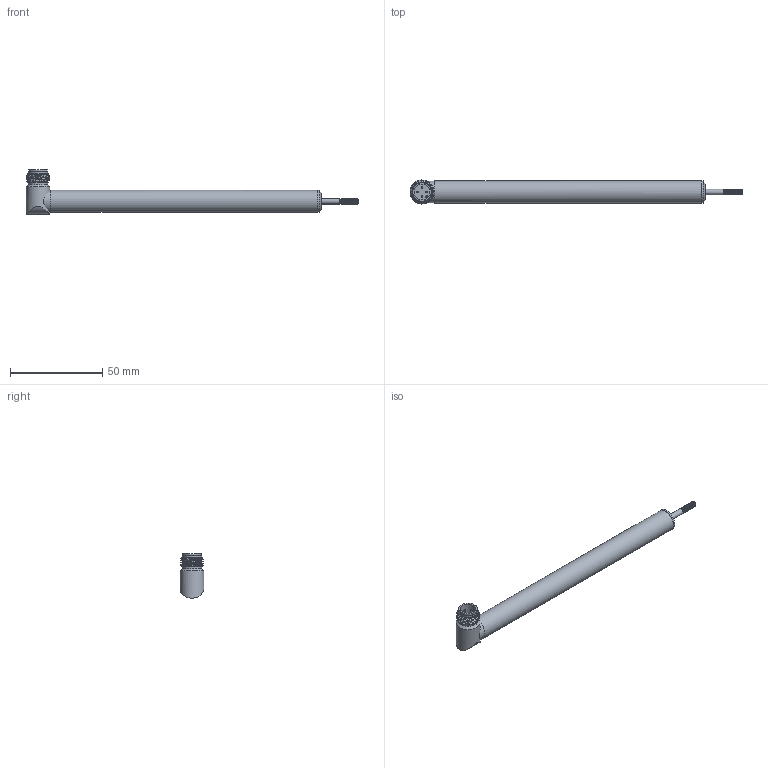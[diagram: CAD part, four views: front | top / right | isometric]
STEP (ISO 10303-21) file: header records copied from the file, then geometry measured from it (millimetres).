
FILE_DESCRIPTION( ( 'STEP AP214' ), '1' );
FILE_NAME( 'N:/Engineering/CAD_Solid/LVDT/SM/Kunden-3D-Modell/SM50-SG-SR.stp', '2011-12-12T13:37:59', ( ' ' ), ( ' ' ), 'XStep 1.0', ' ', ' ' );
FILE_SCHEMA( ( 'CONFIG_CONTROL_DESIGN) ( )' ) );
Length unit declared in the file: metre
Products named in the file (3): 1; 2; 3
Bounding box: 180 x 13 x 24.1 mm (x, y, z)
Surface area: 8111.5 mm2 (no closed solid volume)
Topology: 0 solids, 52 shells, 52 faces, 208 edges, 186 vertices
Faces by surface type: cylinder 21, plane 14, bspline 9, cone 8
Full cylindrical faces by diameter (mm): 1 x4, 2.4 x1, 3 x1, 8.5 x1, 10 x1, 10.6 x2, 11.8 x1, 12 x2, 13 x1
Entity records: 6681 total; most frequent: CARTESIAN_POINT 4789, DIRECTION 304, ORIENTED_EDGE 175, EDGE_CURVE 175, VERTEX_POINT 175, AXIS2_PLACEMENT_3D 137, CIRCLE 91, FACE_BOUND 87
